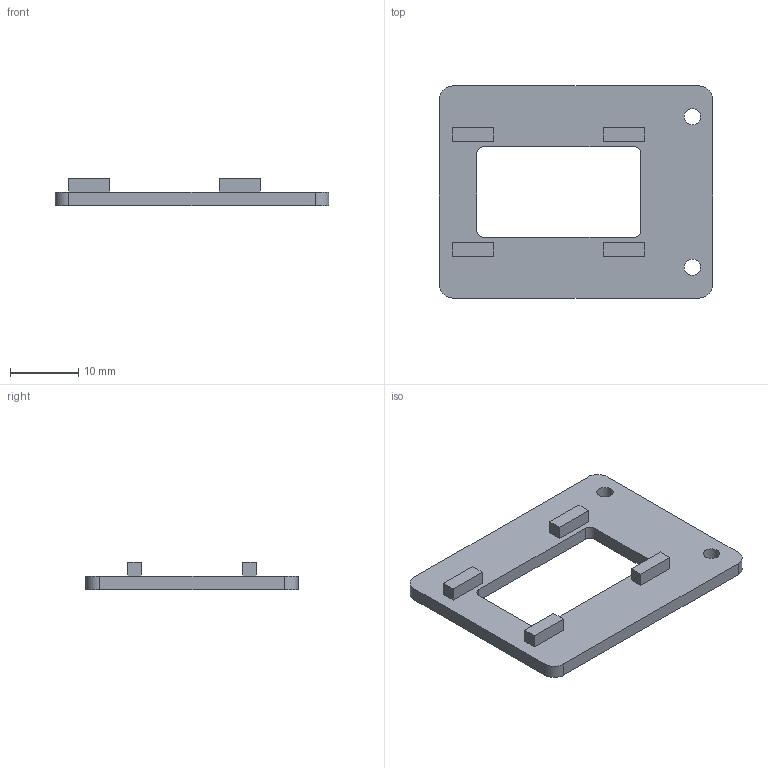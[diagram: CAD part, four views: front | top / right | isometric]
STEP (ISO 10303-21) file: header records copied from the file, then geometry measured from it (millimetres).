
FILE_DESCRIPTION(('Open CASCADE Model'),'2;1');
FILE_NAME('Open CASCADE Shape Model','2026-11-08T17:26:56',('Author'),( 'Open CASCADE'),'Open CASCADE STEP processor 7.8','Open CASCADE 7.8' ,'Unknown');
FILE_SCHEMA(('AUTOMOTIVE_DESIGN { 1 0 10303 214 1 1 1 1 }'));
Length unit declared in the file: millimetre
Products named in the file (1): Open CASCADE STEP translator 7.8 3
Bounding box: 40 x 31 x 4 mm (x, y, z)
Volume: 1919.2 mm3; surface area: 2403.8 mm2
Topology: 1 solids, 1 shells, 40 faces, 102 edges, 68 vertices
Faces by surface type: plane 30, cylinder 10
Full cylindrical faces by diameter (mm): 2.4 x2
Entity records: 2572 total; most frequent: CARTESIAN_POINT 451, DIRECTION 402, LINE 266, VECTOR 266, ORIENTED_EDGE 204, PCURVE 204, DEFINITIONAL_REPRESENTATION 204, EDGE_CURVE 102
